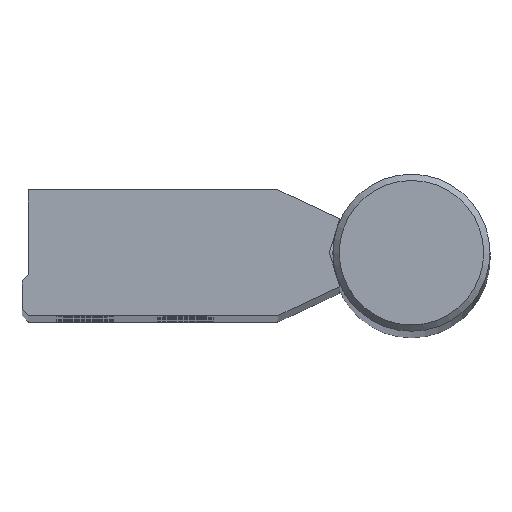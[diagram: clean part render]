
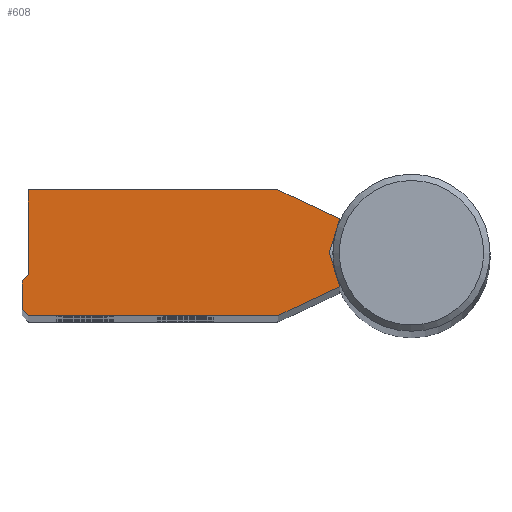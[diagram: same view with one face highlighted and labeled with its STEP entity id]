
A CAD part, top view. The second image highlights one B-rep face of the part: STEP entity #608.
In plain terms, the highlighted planar face has unit normal (0, 0, 1).
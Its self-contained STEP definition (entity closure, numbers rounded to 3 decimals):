
#608=ADVANCED_FACE('',(#856),#857,.F.);
#856=FACE_OUTER_BOUND('',#1288,.T.);
#857=PLANE('',#1289);
#1288=EDGE_LOOP('',(#1877,#1878,#1879,#1880,#1881,#1882,#1883,#1884,#1885,#1886));
#1289=AXIS2_PLACEMENT_3D('',#1887,#1888,#1889);
#1877=ORIENTED_EDGE('',*,*,#2562,.F.);
#1878=ORIENTED_EDGE('',*,*,#2552,.F.);
#1879=ORIENTED_EDGE('',*,*,#2563,.F.);
#1880=ORIENTED_EDGE('',*,*,#2564,.F.);
#1881=ORIENTED_EDGE('',*,*,#2565,.F.);
#1882=ORIENTED_EDGE('',*,*,#2566,.F.);
#1883=ORIENTED_EDGE('',*,*,#2567,.F.);
#1884=ORIENTED_EDGE('',*,*,#2568,.F.);
#1885=ORIENTED_EDGE('',*,*,#2569,.F.);
#1886=ORIENTED_EDGE('',*,*,#2570,.F.);
#1887=CARTESIAN_POINT('',(-61.0,10.0,300.0));
#1888=DIRECTION('',(0.0,0.0,-1.0));
#1889=DIRECTION('',(0.0,1.0,0.0));
#2552=EDGE_CURVE('',#2848,#2850,#2851,.T.);
#2562=EDGE_CURVE('',#2850,#2869,#2870,.T.);
#2563=EDGE_CURVE('',#2871,#2848,#2872,.T.);
#2564=EDGE_CURVE('',#2873,#2871,#2874,.T.);
#2565=EDGE_CURVE('',#2875,#2873,#2876,.T.);
#2566=EDGE_CURVE('',#2877,#2875,#2878,.T.);
#2567=EDGE_CURVE('',#2879,#2877,#2880,.T.);
#2568=EDGE_CURVE('',#2881,#2879,#2882,.T.);
#2569=EDGE_CURVE('',#2883,#2881,#2884,.T.);
#2570=EDGE_CURVE('',#2869,#2883,#2885,.T.);
#2848=VERTEX_POINT('',#4150);
#2850=VERTEX_POINT('',#4153);
#2851=LINE('',#4154,#4155);
#2869=VERTEX_POINT('',#4179);
#2870=LINE('',#4180,#4181);
#2871=VERTEX_POINT('',#4182);
#2872=LINE('',#4183,#4184);
#2873=VERTEX_POINT('',#4185);
#2874=LINE('',#4186,#4187);
#2875=VERTEX_POINT('',#4188);
#2876=LINE('',#4189,#4190);
#2877=VERTEX_POINT('',#4191);
#2878=LINE('',#4192,#4193);
#2879=VERTEX_POINT('',#4194);
#2880=LINE('',#4195,#4196);
#2881=VERTEX_POINT('',#4197);
#2882=LINE('',#4198,#4199);
#2883=VERTEX_POINT('',#4200);
#2884=LINE('',#4201,#4202);
#2885=LINE('',#4203,#4204);
#4150=CARTESIAN_POINT('',(-62.0,-4.5,300.0));
#4153=CARTESIAN_POINT('',(-61.0,-3.5,300.0));
#4154=CARTESIAN_POINT('',(-62.0,-4.5,300.0));
#4155=VECTOR('',#4623,1.0);
#4179=CARTESIAN_POINT('',(-61.0,10.0,300.0));
#4180=CARTESIAN_POINT('',(-61.0,-3.5,300.0));
#4181=VECTOR('',#4639,1.0);
#4182=CARTESIAN_POINT('',(-62.0,-9.0,300.0));
#4183=CARTESIAN_POINT('',(-62.0,-9.0,300.0));
#4184=VECTOR('',#4640,1.0);
#4185=CARTESIAN_POINT('',(-61.0,-10.0,300.0));
#4186=CARTESIAN_POINT('',(-61.0,-10.0,300.0));
#4187=VECTOR('',#4641,1.0);
#4188=CARTESIAN_POINT('',(-21.269,-10.0,300.0));
#4189=CARTESIAN_POINT('',(-21.269,-10.0,300.0));
#4190=VECTOR('',#4642,1.0);
#4191=CARTESIAN_POINT('',(-11.404,-5.4,300.0));
#4192=CARTESIAN_POINT('',(-11.404,-5.4,300.0));
#4193=VECTOR('',#4643,1.0);
#4194=CARTESIAN_POINT('',(-13.107,0.,300.0));
#4195=CARTESIAN_POINT('',(-13.107,0.,300.0));
#4196=VECTOR('',#4644,1.0);
#4197=CARTESIAN_POINT('',(-11.404,5.4,300.0));
#4198=CARTESIAN_POINT('',(-11.404,5.4,300.0));
#4199=VECTOR('',#4645,1.0);
#4200=CARTESIAN_POINT('',(-21.269,10.0,300.0));
#4201=CARTESIAN_POINT('',(-21.269,10.0,300.0));
#4202=VECTOR('',#4646,1.0);
#4203=CARTESIAN_POINT('',(-61.0,10.0,300.0));
#4204=VECTOR('',#4647,1.0);
#4623=DIRECTION('',(0.707,0.707,0.0));
#4639=DIRECTION('',(0.0,1.0,0.0));
#4640=DIRECTION('',(0.0,1.0,0.0));
#4641=DIRECTION('',(-0.707,0.707,0.0));
#4642=DIRECTION('',(-1.0,0.0,0.0));
#4643=DIRECTION('',(-0.906,-0.423,0.0));
#4644=DIRECTION('',(0.301,-0.954,0.0));
#4645=DIRECTION('',(-0.301,-0.954,0.0));
#4646=DIRECTION('',(0.906,-0.423,0.0));
#4647=DIRECTION('',(1.0,0.0,0.0));
